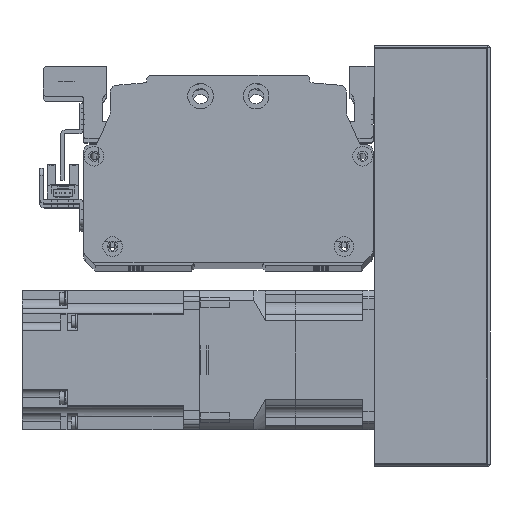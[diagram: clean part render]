
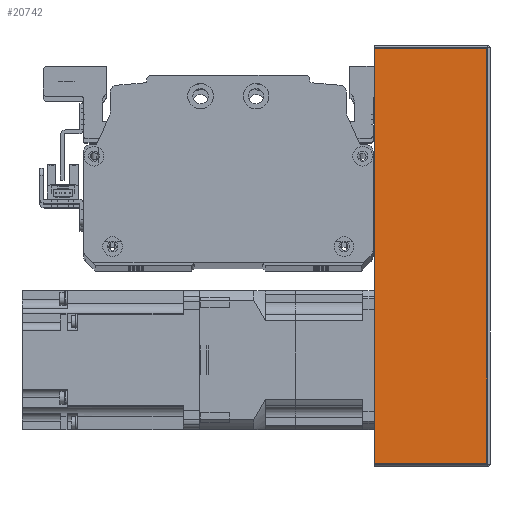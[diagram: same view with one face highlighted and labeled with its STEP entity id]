
A CAD part, top view. The second image highlights one B-rep face of the part: STEP entity #20742.
In plain terms, the highlighted planar face has unit normal (0, 0, 1) as drawn and (0, 1, 0) by its records, which use the part's own axes.
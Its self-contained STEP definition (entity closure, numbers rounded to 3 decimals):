
#568=PLANE('',#22781);
#1775=LINE('',#33795,#3399);
#1789=LINE('',#33840,#3413);
#1793=LINE('',#33862,#3417);
#1812=LINE('',#33925,#3436);
#3399=VECTOR('',#27470,10.);
#3413=VECTOR('',#27518,10.);
#3417=VECTOR('',#27552,10.);
#3436=VECTOR('',#27635,10.);
#5848=FACE_OUTER_BOUND('',#7336,.T.);
#7336=EDGE_LOOP('',(#17302,#17303,#17304,#17305));
#10216=VERTEX_POINT('',#33792);
#10217=VERTEX_POINT('',#33794);
#10230=VERTEX_POINT('',#33835);
#10231=VERTEX_POINT('',#33838);
#12673=EDGE_CURVE('',#10217,#10216,#1775,.T.);
#12697=EDGE_CURVE('',#10230,#10231,#1789,.T.);
#12709=EDGE_CURVE('',#10216,#10230,#1793,.T.);
#12740=EDGE_CURVE('',#10231,#10217,#1812,.T.);
#17302=ORIENTED_EDGE('',*,*,#12697,.T.);
#17303=ORIENTED_EDGE('',*,*,#12740,.T.);
#17304=ORIENTED_EDGE('',*,*,#12673,.T.);
#17305=ORIENTED_EDGE('',*,*,#12709,.T.);
#20742=ADVANCED_FACE('',(#5848),#568,.F.);
#22781=AXIS2_PLACEMENT_3D('',#33924,#27633,#27634);
#27470=DIRECTION('',(-1.,0.,0.));
#27518=DIRECTION('',(1.,0.,0.));
#27552=DIRECTION('',(0.,0.,1.));
#27633=DIRECTION('center_axis',(0.,-1.,0.));
#27634=DIRECTION('ref_axis',(-1.,0.,0.));
#27635=DIRECTION('',(0.,0.,-1.));
#33792=CARTESIAN_POINT('',(-90.,38.,-25.));
#33794=CARTESIAN_POINT('',(90.,38.,-25.));
#33795=CARTESIAN_POINT('',(-91.,38.,-25.));
#33835=CARTESIAN_POINT('',(-90.,38.,24.));
#33838=CARTESIAN_POINT('',(90.,38.,24.));
#33840=CARTESIAN_POINT('',(45.5,38.,24.));
#33862=CARTESIAN_POINT('',(-90.,38.,0.));
#33924=CARTESIAN_POINT('Origin',(91.,38.,0.));
#33925=CARTESIAN_POINT('',(90.,38.,0.));
